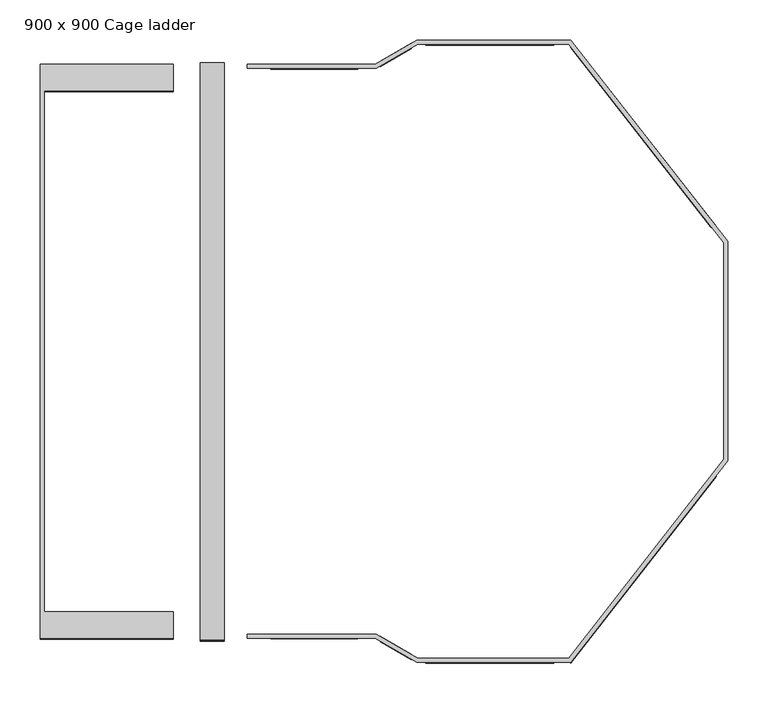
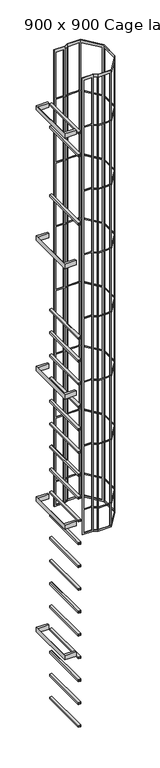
"""IFC4 building model written with IfcOpenShell, lengths in millimetres: proxy geometry, 2_Topaccess_dakluik_900x900_Staka : 900 x 900 Cage ladder."""

from ifc_helpers import new_model, si_unit, frame, origin, place, context, project, spatial, polyline, outline, extrude, faceted_brep, source, transform, mapped, element, save


def proxy_900_x_900_cage_ladder_f72fa98c(model_context):
    return source(origin(), model_context, "Body", "SolidModel", [
        extrude(outline(polyline([(-1131.2697623, 587.2143295), (-965.0960873, 587.2143295), (-965.0960873, 554.2143295), (-1126.2697623, 554.2143295), (-1126.2697623, -95.7856705), (-965.0960873, -95.7856705), (-965.0960873, -128.7856705), (-1131.2697623, -128.7856705), (-1131.2697623, 587.2143295)])), frame((0.0, 0.0, -8830.0), z_axis=(0.0, 0.0, 1.0), x_axis=(1.0, 0.0, 0.0)), (0.0, 0.0, 1.0), 66.0),
        extrude(outline(polyline([(-1131.2697623, 587.2143295), (-965.0960873, 587.2143295), (-965.0960873, 554.2143295), (-1126.2697623, 554.2143295), (-1126.2697623, -95.7856705), (-965.0960873, -95.7856705), (-965.0960873, -128.7856705), (-1131.2697623, -128.7856705), (-1131.2697623, 587.2143295)])), frame((0.0, 0.0, -6830.0), z_axis=(0.0, 0.0, 1.0), x_axis=(1.0, 0.0, 0.0)), (0.0, 0.0, 1.0), 66.0),
        extrude(outline(polyline([(-1131.2697623, 587.2143295), (-965.0960873, 587.2143295), (-965.0960873, 554.2143295), (-1126.2697623, 554.2143295), (-1126.2697623, -95.7856705), (-965.0960873, -95.7856705), (-965.0960873, -128.7856705), (-1131.2697623, -128.7856705), (-1131.2697623, 587.2143295)])), frame((0.0, 0.0, -4830.0), z_axis=(0.0, 0.0, 1.0), x_axis=(1.0, 0.0, 0.0)), (0.0, 0.0, 1.0), 66.0),
        extrude(outline(polyline([(-1131.2697623, 587.2143295), (-965.0960873, 587.2143295), (-965.0960873, 554.2143295), (-1126.2697623, 554.2143295), (-1126.2697623, -95.7856705), (-965.0960873, -95.7856705), (-965.0960873, -128.7856705), (-1131.2697623, -128.7856705), (-1131.2697623, 587.2143295)])), frame((0.0, 0.0, -2830.0), z_axis=(0.0, 0.0, 1.0), x_axis=(1.0, 0.0, 0.0)), (0.0, 0.0, 1.0), 66.0),
        extrude(outline(polyline([(-1131.2697623, 587.2143295), (-965.0960873, 587.2143295), (-965.0960873, 554.2143295), (-1126.2697623, 554.2143295), (-1126.2697623, -95.7856705), (-965.0960873, -95.7856705), (-965.0960873, -128.7856705), (-1131.2697623, -128.7856705), (-1131.2697623, 587.2143295)])), frame((0.0, 0.0, -830.0), z_axis=(0.0, 0.0, 1.0), x_axis=(1.0, 0.0, 0.0)), (0.0, 0.0, 1.0), 66.0),
        extrude(outline(polyline([(-9550.3518203, -901.2697623), (-9555.6416297, -931.2697623), (-9583.3518203, -931.2697623), (-9583.3518203, -901.2697623), (-9550.3518203, -901.2697623)]), holes=[polyline([(-9578.3518203, -906.2697623), (-9578.3518203, -926.2697623), (-9559.8371279, -926.2697623), (-9556.3105883, -906.2697623), (-9578.3518203, -906.2697623)])]), frame((0.0, -130.7856705, 0.0), z_axis=(0.0, 1.0, 0.0), x_axis=(0.0, 0.0, 1.0)), (0.0, 0.0, 1.0), 719.9860439),
        extrude(outline(polyline([(-9200.3518203, -901.2697623), (-9205.6416297, -931.2697623), (-9233.3518203, -931.2697623), (-9233.3518203, -901.2697623), (-9200.3518203, -901.2697623)]), holes=[polyline([(-9228.3518203, -906.2697623), (-9228.3518203, -926.2697623), (-9209.8371279, -926.2697623), (-9206.3105883, -906.2697623), (-9228.3518203, -906.2697623)])]), frame((0.0, -130.7856705, 0.0), z_axis=(0.0, 1.0, 0.0), x_axis=(0.0, 0.0, 1.0)), (0.0, 0.0, 1.0), 719.9860439),
        extrude(outline(polyline([(-8850.3518203, -901.2697623), (-8855.6416297, -931.2697623), (-8883.3518203, -931.2697623), (-8883.3518203, -901.2697623), (-8850.3518203, -901.2697623)]), holes=[polyline([(-8878.3518203, -906.2697623), (-8878.3518203, -926.2697623), (-8859.8371279, -926.2697623), (-8856.3105883, -906.2697623), (-8878.3518203, -906.2697623)])]), frame((0.0, -130.7856705, 0.0), z_axis=(0.0, 1.0, 0.0), x_axis=(0.0, 0.0, 1.0)), (0.0, 0.0, 1.0), 719.9860439),
        extrude(outline(polyline([(-8500.3518203, -901.2697623), (-8505.6416297, -931.2697623), (-8533.3518203, -931.2697623), (-8533.3518203, -901.2697623), (-8500.3518203, -901.2697623)]), holes=[polyline([(-8528.3518203, -906.2697623), (-8528.3518203, -926.2697623), (-8509.8371279, -926.2697623), (-8506.3105883, -906.2697623), (-8528.3518203, -906.2697623)])]), frame((0.0, -130.7856705, 0.0), z_axis=(0.0, 1.0, 0.0), x_axis=(0.0, 0.0, 1.0)), (0.0, 0.0, 1.0), 719.9860439),
        extrude(outline(polyline([(-8150.3518203, -901.2697623), (-8155.6416297, -931.2697623), (-8183.3518203, -931.2697623), (-8183.3518203, -901.2697623), (-8150.3518203, -901.2697623)]), holes=[polyline([(-8178.3518203, -906.2697623), (-8178.3518203, -926.2697623), (-8159.8371279, -926.2697623), (-8156.3105883, -906.2697623), (-8178.3518203, -906.2697623)])]), frame((0.0, -130.7856705, 0.0), z_axis=(0.0, 1.0, 0.0), x_axis=(0.0, 0.0, 1.0)), (0.0, 0.0, 1.0), 719.9860439),
        extrude(outline(polyline([(-7800.3518203, -901.2697623), (-7805.6416297, -931.2697623), (-7833.3518203, -931.2697623), (-7833.3518203, -901.2697623), (-7800.3518203, -901.2697623)]), holes=[polyline([(-7828.3518203, -906.2697623), (-7828.3518203, -926.2697623), (-7809.8371279, -926.2697623), (-7806.3105883, -906.2697623), (-7828.3518203, -906.2697623)])]), frame((0.0, -130.7856705, 0.0), z_axis=(0.0, 1.0, 0.0), x_axis=(0.0, 0.0, 1.0)), (0.0, 0.0, 1.0), 719.9860439),
        extrude(outline(polyline([(-9900.3518203, -901.2697623), (-9905.6416297, -931.2697623), (-9933.3518203, -931.2697623), (-9933.3518203, -901.2697623), (-9900.3518203, -901.2697623)]), holes=[polyline([(-9928.3518203, -906.2697623), (-9928.3518203, -926.2697623), (-9909.8371279, -926.2697623), (-9906.3105883, -906.2697623), (-9928.3518203, -906.2697623)])]), frame((0.0, -130.7856705, 0.0), z_axis=(0.0, 1.0, 0.0), x_axis=(0.0, 0.0, 1.0)), (0.0, 0.0, 1.0), 719.9860439),
        faceted_brep([(-469.3139154, -158.7856705, -7000.0), (-661.1345631, -158.7856705, -7000.0), (-713.0960873, -128.7856705, -7000.0), (-873.0960873, -128.7856705, -7000.0), (-873.0960873, -123.7856705, -7000.0), (-711.7563414, -123.7856705, -7000.0), (-659.7948171, -153.7856705, -7000.0), (-471.7525783, -153.7856705, -7000.0), (-278.0960873, 94.0833347, -7000.0), (-278.0960873, 364.3453244, -7000.0), (-471.7525783, 612.2143295, -7000.0), (-659.7948171, 612.2143295, -7000.0), (-711.7563414, 582.2143295, -7000.0), (-873.0960873, 582.2143295, -7000.0), (-873.0960873, 587.2143295, -7000.0), (-713.0960873, 587.2143295, -7000.0), (-661.1345631, 617.2143295, -7000.0), (-469.3139154, 617.2143295, -7000.0), (-273.0960873, 366.0669624, -7000.0), (-273.0960873, 92.3616966, -7000.0), (-469.3139154, -158.7856705, 0.0), (-273.0960873, 92.3616966, 0.0), (-273.0960873, 366.0669624, 0.0), (-469.3139154, 617.2143295, 0.0), (-661.1345631, 617.2143295, 0.0), (-713.0960873, 587.2143295, 0.0), (-873.0960873, 587.2143295, 0.0), (-873.0960873, 582.2143295, 0.0), (-711.7563414, 582.2143295, 0.0), (-659.7948171, 612.2143295, 0.0), (-471.7525783, 612.2143295, 0.0), (-278.0960873, 364.3453244, 0.0), (-278.0960873, 94.0833347, 0.0), (-471.7525783, -153.7856705, 0.0), (-659.7948171, -153.7856705, 0.0), (-711.7563414, -123.7856705, 0.0), (-873.0960873, -123.7856705, 0.0), (-873.0960873, -128.7856705, 0.0), (-713.0960873, -128.7856705, 0.0), (-661.1345631, -158.7856705, 0.0), (-735.0019754, 587.2143295, -6979.1330823), (-735.0019754, 587.2143295, -6631.2661646), (-843.5509676, 587.2143295, -6631.2661646), (-843.5509676, 587.2143295, -6979.1330823), (-735.0019754, 587.2143295, -6613.9496738), (-735.0019754, 587.2143295, -5653.9496738), (-843.5509676, 587.2143295, -5653.9496738), (-843.5509676, 587.2143295, -6613.9496738), (-735.0019754, 587.2143295, -5636.6331829), (-735.0019754, 587.2143295, -4676.6331829), (-843.5509676, 587.2143295, -4676.6331829), (-843.5509676, 587.2143295, -5636.6331829), (-735.0019754, 587.2143295, -4659.3166921), (-735.0019754, 587.2143295, -3699.3166921), (-843.5509676, 587.2143295, -3699.3166921), (-843.5509676, 587.2143295, -4659.3166921), (-735.0019754, 587.2143295, -3682.0002012), (-735.0019754, 587.2143295, -2722.0002012), (-843.5509676, 587.2143295, -2722.0002012), (-843.5509676, 587.2143295, -3682.0002012), (-735.0019754, 587.2143295, -2704.6837104), (-735.0019754, 587.2143295, -1744.6837104), (-843.5509676, 587.2143295, -1744.6837104), (-843.5509676, 587.2143295, -2704.6837104), (-735.0019754, 587.2143295, -1727.3672195), (-735.0019754, 587.2143295, -767.3672195), (-843.5509676, 587.2143295, -767.3672195), (-843.5509676, 587.2143295, -1727.3672195), (-735.0019754, 587.2143295, -750.0507287), (-735.0019754, 587.2143295, -43.4473494), (-843.5509676, 587.2143295, -43.4473494), (-843.5509676, 587.2143295, -750.0507287), (-667.8982538, 613.3093109, -6982.1330823), (-667.8982538, 613.3093109, -6652.1330823), (-707.1488288, 590.6479808, -6652.1330823), (-707.1488288, 590.6479808, -6982.1330823), (-667.8982538, 613.3093109, -6634.8165915), (-667.8982538, 613.3093109, -5674.8165915), (-707.1488288, 590.6479808, -5674.8165915), (-707.1488288, 590.6479808, -6634.8165915), (-667.8982538, 613.3093109, -5657.5001006), (-667.8982538, 613.3093109, -4697.5001006), (-707.1488288, 590.6479808, -4697.5001006), (-707.1488288, 590.6479808, -5657.5001006), (-667.8982538, 613.3093109, -4680.1836098), (-667.8982538, 613.3093109, -3720.1836098), (-707.1488288, 590.6479808, -3720.1836098), (-707.1488288, 590.6479808, -4680.1836098), (-667.8982538, 613.3093109, -3702.8671189), (-667.8982538, 613.3093109, -2742.8671189), (-707.1488288, 590.6479808, -2742.8671189), (-707.1488288, 590.6479808, -3702.8671189), (-667.8982538, 613.3093109, -2725.5506281), (-667.8982538, 613.3093109, -1765.5506281), (-707.1488288, 590.6479808, -1765.5506281), (-707.1488288, 590.6479808, -2725.5506281), (-667.8982538, 613.3093109, -1748.2341372), (-667.8982538, 613.3093109, -788.2341372), (-707.1488288, 590.6479808, -788.2341372), (-707.1488288, 590.6479808, -1748.2341372), (-667.8982538, 613.3093109, -770.9176464), (-667.8982538, 613.3093109, -43.4473494), (-707.1488288, 590.6479808, -43.4473494), (-707.1488288, 590.6479808, -770.9176464), (-469.3139154, 617.2143295, -43.4473494), (-469.3139154, 617.2143295, -770.9176464), (-469.3139154, 617.2143295, -788.2341372), (-469.3139154, 617.2143295, -1748.2341372), (-469.3139154, 617.2143295, -1765.5506281), (-469.3139154, 617.2143295, -2725.5506281), (-469.3139154, 617.2143295, -2742.8671189), (-469.3139154, 617.2143295, -3702.8671189), (-469.3139154, 617.2143295, -3720.1836098), (-469.3139154, 617.2143295, -4680.1836098), (-469.3139154, 617.2143295, -4697.5001006), (-469.3139154, 617.2143295, -5657.5001006), (-469.3139154, 617.2143295, -5674.8165915), (-469.3139154, 617.2143295, -6634.8165915), (-469.3139154, 617.2143295, -6652.1330823), (-469.3139154, 617.2143295, -6975.0), (-490.4779321, 617.2143295, -6979.1330823), (-490.4779321, 617.2143295, -6652.1330823), (-649.9751443, 617.2143295, -6652.1330823), (-649.9751443, 617.2143295, -6979.1330823), (-490.4779321, 617.2143295, -6634.8165915), (-490.4779321, 617.2143295, -5674.8165915), (-649.9751443, 617.2143295, -5674.8165915), (-649.9751443, 617.2143295, -6634.8165915), (-490.4779321, 617.2143295, -5657.5001006), (-490.4779321, 617.2143295, -4697.5001006), (-649.9751443, 617.2143295, -4697.5001006), (-649.9751443, 617.2143295, -5657.5001006), (-490.4779321, 617.2143295, -4680.1836098), (-490.4779321, 617.2143295, -3720.1836098), (-649.9751443, 617.2143295, -3720.1836098), (-649.9751443, 617.2143295, -4680.1836098), (-490.4779321, 617.2143295, -3702.8671189), (-490.4779321, 617.2143295, -2742.8671189), (-649.9751443, 617.2143295, -2742.8671189), (-649.9751443, 617.2143295, -3702.8671189), (-490.4779321, 617.2143295, -2725.5506281), (-490.4779321, 617.2143295, -1765.5506281), (-649.9751443, 617.2143295, -1765.5506281), (-649.9751443, 617.2143295, -2725.5506281), (-490.4779321, 617.2143295, -1748.2341372), (-490.4779321, 617.2143295, -788.2341372), (-649.9751443, 617.2143295, -788.2341372), (-649.9751443, 617.2143295, -1748.2341372), (-490.4779321, 617.2143295, -770.9176464), (-490.4779321, 617.2143295, -43.4473494), (-649.9751443, 617.2143295, -43.4473494), (-649.9751443, 617.2143295, -770.9176464), (-287.9175778, 385.0376052, -6975.0), (-287.9175778, 385.0376052, -6652.1330823), (-287.9175778, 385.0376052, -6634.8165915), (-287.9175778, 385.0376052, -5674.8165915), (-287.9175778, 385.0376052, -5657.5001006), (-287.9175778, 385.0376052, -4697.5001006), (-287.9175778, 385.0376052, -4680.1836098), (-287.9175778, 385.0376052, -3720.1836098), (-287.9175778, 385.0376052, -3702.8671189), (-287.9175778, 385.0376052, -2742.8671189), (-287.9175778, 385.0376052, -2725.5506281), (-287.9175778, 385.0376052, -1765.5506281), (-287.9175778, 385.0376052, -1748.2341372), (-287.9175778, 385.0376052, -788.2341372), (-287.9175778, 385.0376052, -770.9176464), (-287.9175778, 385.0376052, -43.4473494), (-273.0960873, 348.3770978, -6975.0), (-273.0960873, 108.3770978, -6975.0), (-273.0960873, 108.3770978, -6652.1330823), (-273.0960873, 348.3770978, -6652.1330823), (-273.0960873, 348.3770978, -6634.8165915), (-273.0960873, 108.3770978, -6634.8165915), (-273.0960873, 108.3770978, -5674.8165915), (-273.0960873, 348.3770978, -5674.8165915), (-273.0960873, 348.3770978, -5657.5001006), (-273.0960873, 108.3770978, -5657.5001006), (-273.0960873, 108.3770978, -4697.5001006), (-273.0960873, 348.3770978, -4697.5001006), (-273.0960873, 348.3770978, -4680.1836098), (-273.0960873, 108.3770978, -4680.1836098), (-273.0960873, 108.3770978, -3720.1836098), (-273.0960873, 348.3770978, -3720.1836098), (-273.0960873, 348.3770978, -3702.8671189), (-273.0960873, 108.3770978, -3702.8671189), (-273.0960873, 108.3770978, -2742.8671189), (-273.0960873, 348.3770978, -2742.8671189), (-273.0960873, 348.3770978, -2725.5506281), (-273.0960873, 108.3770978, -2725.5506281), (-273.0960873, 108.3770978, -1765.5506281), (-273.0960873, 348.3770978, -1765.5506281), (-273.0960873, 348.3770978, -1748.2341372), (-273.0960873, 108.3770978, -1748.2341372), (-273.0960873, 108.3770978, -788.2341372), (-273.0960873, 348.3770978, -788.2341372), (-273.0960873, 348.3770978, -770.9176464), (-273.0960873, 108.3770978, -770.9176464), (-273.0960873, 108.3770978, -43.4473494), (-273.0960873, 348.3770978, -43.4473494), (-469.3139154, -158.7856705, -43.4473494), (-287.9284816, 73.3770978, -43.4473494), (-287.9284816, 73.3770978, -770.9176464), (-469.3139154, -158.7856705, -770.9176464), (-469.3139154, -158.7856705, -788.2341372), (-287.9284816, 73.3770978, -788.2341372), (-287.9284816, 73.3770978, -1748.2341372), (-469.3139154, -158.7856705, -1748.2341372), (-469.3139154, -158.7856705, -1765.5506281), (-287.9284816, 73.3770978, -1765.5506281), (-287.9284816, 73.3770978, -2725.5506281), (-469.3139154, -158.7856705, -2725.5506281), (-469.3139154, -158.7856705, -2742.8671189), (-287.9284816, 73.3770978, -2742.8671189), (-287.9284816, 73.3770978, -3702.8671189), (-469.3139154, -158.7856705, -3702.8671189), (-469.3139154, -158.7856705, -3720.1836098), (-287.9284816, 73.3770978, -3720.1836098), (-287.9284816, 73.3770978, -4680.1836098), (-469.3139154, -158.7856705, -4680.1836098), (-469.3139154, -158.7856705, -4697.5001006), (-287.9284816, 73.3770978, -4697.5001006), (-287.9284816, 73.3770978, -5657.5001006), (-469.3139154, -158.7856705, -5657.5001006), (-469.3139154, -158.7856705, -5674.8165915), (-287.9284816, 73.3770978, -5674.8165915), (-287.9284816, 73.3770978, -6634.8165915), (-469.3139154, -158.7856705, -6634.8165915), (-469.3139154, -158.7856705, -6652.1330823), (-287.9284816, 73.3770978, -6652.1330823), (-287.9284816, 73.3770978, -6979.1330823), (-469.3139154, -158.7856705, -6979.1330823), (-490.4779321, -158.7856705, -6652.1330823), (-490.4779321, -158.7856705, -6979.1330823), (-649.9751443, -158.7856705, -6979.1330823), (-649.9751443, -158.7856705, -6652.1330823), (-490.4779321, -158.7856705, -5674.8165915), (-490.4779321, -158.7856705, -6634.8165915), (-649.9751443, -158.7856705, -6634.8165915), (-649.9751443, -158.7856705, -5674.8165915), (-490.4779321, -158.7856705, -4697.5001006), (-490.4779321, -158.7856705, -5657.5001006), (-649.9751443, -158.7856705, -5657.5001006), (-649.9751443, -158.7856705, -4697.5001006), (-490.4779321, -158.7856705, -3720.1836098), (-490.4779321, -158.7856705, -4680.1836098), (-649.9751443, -158.7856705, -4680.1836098), (-649.9751443, -158.7856705, -3720.1836098), (-490.4779321, -158.7856705, -2742.8671189), (-490.4779321, -158.7856705, -3702.8671189), (-649.9751443, -158.7856705, -3702.8671189), (-649.9751443, -158.7856705, -2742.8671189), (-490.4779321, -158.7856705, -1765.5506281), (-490.4779321, -158.7856705, -2725.5506281), (-649.9751443, -158.7856705, -2725.5506281), (-649.9751443, -158.7856705, -1765.5506281), (-490.4779321, -158.7856705, -788.2341372), (-490.4779321, -158.7856705, -1748.2341372), (-649.9751443, -158.7856705, -1748.2341372), (-649.9751443, -158.7856705, -788.2341372), (-490.4779321, -158.7856705, -43.4473494), (-490.4779321, -158.7856705, -770.9176464), (-649.9751443, -158.7856705, -770.9176464), (-649.9751443, -158.7856705, -43.4473494), (-667.8982538, -154.8806518, -6652.1330823), (-667.8982538, -154.8806518, -6982.1330823), (-707.1488288, -132.2193217, -6982.1330823), (-707.1488288, -132.2193217, -6652.1330823), (-667.8982538, -154.8806518, -5674.8165915), (-667.8982538, -154.8806518, -6634.8165915), (-707.1488288, -132.2193217, -6634.8165915), (-707.1488288, -132.2193217, -5674.8165915), (-667.8982538, -154.8806518, -4697.5001006), (-667.8982538, -154.8806518, -5657.5001006), (-707.1488288, -132.2193217, -5657.5001006), (-707.1488288, -132.2193217, -4697.5001006), (-667.8982538, -154.8806518, -3720.1836098), (-667.8982538, -154.8806518, -4680.1836098), (-707.1488288, -132.2193217, -4680.1836098), (-707.1488288, -132.2193217, -3720.1836098), (-667.8982538, -154.8806518, -2742.8671189), (-667.8982538, -154.8806518, -3702.8671189), (-707.1488288, -132.2193217, -3702.8671189), (-707.1488288, -132.2193217, -2742.8671189), (-667.8982538, -154.8806518, -1765.5506281), (-667.8982538, -154.8806518, -2725.5506281), (-707.1488288, -132.2193217, -2725.5506281), (-707.1488288, -132.2193217, -1765.5506281), (-667.8982538, -154.8806518, -788.2341372), (-667.8982538, -154.8806518, -1748.2341372), (-707.1488288, -132.2193217, -1748.2341372), (-707.1488288, -132.2193217, -788.2341372), (-667.8982538, -154.8806518, -43.4473494), (-667.8982538, -154.8806518, -770.9176464), (-707.1488288, -132.2193217, -770.9176464), (-707.1488288, -132.2193217, -43.4473494), (-735.0019754, -128.7856705, -6631.2661646), (-735.0019754, -128.7856705, -6979.1330823), (-843.5509676, -128.7856705, -6979.1330823), (-843.5509676, -128.7856705, -6631.2661646), (-735.0019754, -128.7856705, -5653.9496738), (-735.0019754, -128.7856705, -6613.9496738), (-843.5509676, -128.7856705, -6613.9496738), (-843.5509676, -128.7856705, -5653.9496738), (-735.0019754, -128.7856705, -4676.6331829), (-735.0019754, -128.7856705, -5636.6331829), (-843.5509676, -128.7856705, -5636.6331829), (-843.5509676, -128.7856705, -4676.6331829), (-735.0019754, -128.7856705, -3699.3166921), (-735.0019754, -128.7856705, -4659.3166921), (-843.5509676, -128.7856705, -4659.3166921), (-843.5509676, -128.7856705, -3699.3166921), (-735.0019754, -128.7856705, -2722.0002012), (-735.0019754, -128.7856705, -3682.0002012), (-843.5509676, -128.7856705, -3682.0002012), (-843.5509676, -128.7856705, -2722.0002012), (-735.0019754, -128.7856705, -1744.6837104), (-735.0019754, -128.7856705, -2704.6837104), (-843.5509676, -128.7856705, -2704.6837104), (-843.5509676, -128.7856705, -1744.6837104), (-735.0019754, -128.7856705, -767.3672195), (-735.0019754, -128.7856705, -1727.3672195), (-843.5509676, -128.7856705, -1727.3672195), (-843.5509676, -128.7856705, -767.3672195), (-735.0019754, -128.7856705, -43.4473494), (-735.0019754, -128.7856705, -750.0507287), (-843.5509676, -128.7856705, -750.0507287), (-843.5509676, -128.7856705, -43.4473494), (-735.0019754, -123.7856705, -6979.1330823), (-735.0019754, -123.7856705, -6631.2661646), (-843.5509676, -123.7856705, -6631.2661646), (-843.5509676, -123.7856705, -6979.1330823), (-735.0019754, -123.7856705, -6613.9496738), (-735.0019754, -123.7856705, -5653.9496738), (-843.5509676, -123.7856705, -5653.9496738), (-843.5509676, -123.7856705, -6613.9496738), (-735.0019754, -123.7856705, -5636.6331829), (-735.0019754, -123.7856705, -4676.6331829), (-843.5509676, -123.7856705, -4676.6331829), (-843.5509676, -123.7856705, -5636.6331829), (-735.0019754, -123.7856705, -4659.3166921), (-735.0019754, -123.7856705, -3699.3166921), (-843.5509676, -123.7856705, -3699.3166921), (-843.5509676, -123.7856705, -4659.3166921), (-735.0019754, -123.7856705, -3682.0002012), (-735.0019754, -123.7856705, -2722.0002012), (-843.5509676, -123.7856705, -2722.0002012), (-843.5509676, -123.7856705, -3682.0002012), (-735.0019754, -123.7856705, -2704.6837104), (-735.0019754, -123.7856705, -1744.6837104), (-843.5509676, -123.7856705, -1744.6837104), (-843.5509676, -123.7856705, -2704.6837104), (-735.0019754, -123.7856705, -1727.3672195), (-735.0019754, -123.7856705, -767.3672195), (-843.5509676, -123.7856705, -767.3672195), (-843.5509676, -123.7856705, -1727.3672195), (-735.0019754, -123.7856705, -750.0507287), (-735.0019754, -123.7856705, -43.4473494), (-843.5509676, -123.7856705, -43.4473494), (-843.5509676, -123.7856705, -750.0507287), (-667.8982538, -149.1071491, -6982.1330823), (-667.8982538, -149.1071491, -6652.1330823), (-707.1488288, -126.4458191, -6652.1330823), (-707.1488288, -126.4458191, -6982.1330823), (-667.8982538, -149.1071491, -6634.8165915), (-667.8982538, -149.1071491, -5674.8165915), (-707.1488288, -126.4458191, -5674.8165915), (-707.1488288, -126.4458191, -6634.8165915), (-667.8982538, -149.1071491, -5657.5001006), (-667.8982538, -149.1071491, -4697.5001006), (-707.1488288, -126.4458191, -4697.5001006), (-707.1488288, -126.4458191, -5657.5001006), (-667.8982538, -149.1071491, -4680.1836098), (-667.8982538, -149.1071491, -3720.1836098), (-707.1488288, -126.4458191, -3720.1836098), (-707.1488288, -126.4458191, -4680.1836098), (-667.8982538, -149.1071491, -3702.8671189), (-667.8982538, -149.1071491, -2742.8671189), (-707.1488288, -126.4458191, -2742.8671189), (-707.1488288, -126.4458191, -3702.8671189), (-667.8982538, -149.1071491, -2725.5506281), (-667.8982538, -149.1071491, -1765.5506281), (-707.1488288, -126.4458191, -1765.5506281), (-707.1488288, -126.4458191, -2725.5506281), (-667.8982538, -149.1071491, -1748.2341372), (-667.8982538, -149.1071491, -788.2341372), (-707.1488288, -126.4458191, -788.2341372), (-707.1488288, -126.4458191, -1748.2341372), (-667.8982538, -149.1071491, -770.9176464), (-667.8982538, -149.1071491, -43.4473494), (-707.1488288, -126.4458191, -43.4473494), (-707.1488288, -126.4458191, -770.9176464), (-490.4779321, -153.7856705, -6979.1330823), (-490.4779321, -153.7856705, -6652.1330823), (-649.9751443, -153.7856705, -6652.1330823), (-649.9751443, -153.7856705, -6979.1330823), (-490.4779321, -153.7856705, -6634.8165915), (-490.4779321, -153.7856705, -5674.8165915), (-649.9751443, -153.7856705, -5674.8165915), (-649.9751443, -153.7856705, -6634.8165915), (-490.4779321, -153.7856705, -5657.5001006), (-490.4779321, -153.7856705, -4697.5001006), (-649.9751443, -153.7856705, -4697.5001006), (-649.9751443, -153.7856705, -5657.5001006), (-490.4779321, -153.7856705, -4680.1836098), (-490.4779321, -153.7856705, -3720.1836098), (-649.9751443, -153.7856705, -3720.1836098), (-649.9751443, -153.7856705, -4680.1836098), (-490.4779321, -153.7856705, -3702.8671189), (-490.4779321, -153.7856705, -2742.8671189), (-649.9751443, -153.7856705, -2742.8671189), (-649.9751443, -153.7856705, -3702.8671189), (-490.4779321, -153.7856705, -2725.5506281), (-490.4779321, -153.7856705, -1765.5506281), (-649.9751443, -153.7856705, -1765.5506281), (-649.9751443, -153.7856705, -2725.5506281), (-490.4779321, -153.7856705, -1748.2341372), (-490.4779321, -153.7856705, -788.2341372), (-649.9751443, -153.7856705, -788.2341372), (-649.9751443, -153.7856705, -1748.2341372), (-490.4779321, -153.7856705, -770.9176464), (-490.4779321, -153.7856705, -43.4473494), (-649.9751443, -153.7856705, -43.4473494), (-649.9751443, -153.7856705, -770.9176464), (-469.3139154, -150.6643242, -6652.1330823), (-469.3139154, -150.6643242, -6979.1330823), (-294.2735726, 73.3770978, -6979.1330823), (-294.2735726, 73.3770978, -6652.1330823), (-469.3139154, -150.6643242, -5674.8165915), (-469.3139154, -150.6643242, -6634.8165915), (-294.2735726, 73.3770978, -6634.8165915), (-294.2735726, 73.3770978, -5674.8165915), (-469.3139154, -150.6643242, -4697.5001006), (-469.3139154, -150.6643242, -5657.5001006), (-294.2735726, 73.3770978, -5657.5001006), (-294.2735726, 73.3770978, -4697.5001006), (-469.3139154, -150.6643242, -3720.1836098), (-469.3139154, -150.6643242, -4680.1836098), (-294.2735726, 73.3770978, -4680.1836098), (-294.2735726, 73.3770978, -3720.1836098), (-469.3139154, -150.6643242, -2742.8671189), (-469.3139154, -150.6643242, -3702.8671189), (-294.2735726, 73.3770978, -3702.8671189), (-294.2735726, 73.3770978, -2742.8671189), (-469.3139154, -150.6643242, -1765.5506281), (-469.3139154, -150.6643242, -2725.5506281), (-294.2735726, 73.3770978, -2725.5506281), (-294.2735726, 73.3770978, -1765.5506281), (-469.3139154, -150.6643242, -788.2341372), (-469.3139154, -150.6643242, -1748.2341372), (-294.2735726, 73.3770978, -1748.2341372), (-294.2735726, 73.3770978, -788.2341372), (-469.3139154, -150.6643242, -43.4473494), (-469.3139154, -150.6643242, -770.9176464), (-294.2735726, 73.3770978, -770.9176464), (-294.2735726, 73.3770978, -43.4473494), (-278.0960873, 108.3770978, -6975.0), (-278.0960873, 348.3770978, -6975.0), (-278.0960873, 348.3770978, -6652.1330823), (-278.0960873, 108.3770978, -6652.1330823), (-278.0960873, 108.3770978, -6634.8165915), (-278.0960873, 348.3770978, -6634.8165915), (-278.0960873, 348.3770978, -5674.8165915), (-278.0960873, 108.3770978, -5674.8165915), (-278.0960873, 108.3770978, -5657.5001006), (-278.0960873, 348.3770978, -5657.5001006), (-278.0960873, 348.3770978, -4697.5001006), (-278.0960873, 108.3770978, -4697.5001006), (-278.0960873, 108.3770978, -4680.1836098), (-278.0960873, 348.3770978, -4680.1836098), (-278.0960873, 348.3770978, -3720.1836098), (-278.0960873, 108.3770978, -3720.1836098), (-278.0960873, 108.3770978, -3702.8671189), (-278.0960873, 348.3770978, -3702.8671189), (-278.0960873, 348.3770978, -2742.8671189), (-278.0960873, 108.3770978, -2742.8671189), (-278.0960873, 108.3770978, -2725.5506281), (-278.0960873, 348.3770978, -2725.5506281), (-278.0960873, 348.3770978, -1765.5506281), (-278.0960873, 108.3770978, -1765.5506281), (-278.0960873, 108.3770978, -1748.2341372), (-278.0960873, 348.3770978, -1748.2341372), (-278.0960873, 348.3770978, -788.2341372), (-278.0960873, 108.3770978, -788.2341372), (-278.0960873, 108.3770978, -770.9176464), (-278.0960873, 348.3770978, -770.9176464), (-278.0960873, 348.3770978, -43.4473494), (-278.0960873, 108.3770978, -43.4473494), (-469.3139154, 609.0929833, -6975.0), (-469.3139154, 609.0929833, -6652.1330823), (-294.2626689, 385.0376052, -6652.1330823), (-294.2626689, 385.0376052, -6975.0), (-469.3139154, 609.0929833, -6634.8165915), (-469.3139154, 609.0929833, -5674.8165915), (-294.2626689, 385.0376052, -5674.8165915), (-294.2626689, 385.0376052, -6634.8165915), (-469.3139154, 609.0929833, -5657.5001006), (-469.3139154, 609.0929833, -4697.5001006), (-294.2626689, 385.0376052, -4697.5001006), (-294.2626689, 385.0376052, -5657.5001006), (-469.3139154, 609.0929833, -4680.1836098), (-469.3139154, 609.0929833, -3720.1836098), (-294.2626689, 385.0376052, -3720.1836098), (-294.2626689, 385.0376052, -4680.1836098), (-469.3139154, 609.0929833, -3702.8671189), (-469.3139154, 609.0929833, -2742.8671189), (-294.2626689, 385.0376052, -2742.8671189), (-294.2626689, 385.0376052, -3702.8671189), (-469.3139154, 609.0929833, -2725.5506281), (-469.3139154, 609.0929833, -1765.5506281), (-294.2626689, 385.0376052, -1765.5506281), (-294.2626689, 385.0376052, -2725.5506281), (-469.3139154, 609.0929833, -1748.2341372), (-469.3139154, 609.0929833, -788.2341372), (-294.2626689, 385.0376052, -788.2341372), (-294.2626689, 385.0376052, -1748.2341372), (-469.3139154, 609.0929833, -770.9176464), (-469.3139154, 609.0929833, -43.4473494), (-294.2626689, 385.0376052, -43.4473494), (-294.2626689, 385.0376052, -770.9176464), (-490.4779321, 612.2143295, -6652.1330823), (-490.4779321, 612.2143295, -6979.1330823), (-649.9751443, 612.2143295, -6979.1330823), (-649.9751443, 612.2143295, -6652.1330823), (-490.4779321, 612.2143295, -5674.8165915), (-490.4779321, 612.2143295, -6634.8165915), (-649.9751443, 612.2143295, -6634.8165915), (-649.9751443, 612.2143295, -5674.8165915), (-490.4779321, 612.2143295, -4697.5001006), (-490.4779321, 612.2143295, -5657.5001006), (-649.9751443, 612.2143295, -5657.5001006), (-649.9751443, 612.2143295, -4697.5001006), (-490.4779321, 612.2143295, -3720.1836098), (-490.4779321, 612.2143295, -4680.1836098), (-649.9751443, 612.2143295, -4680.1836098), (-649.9751443, 612.2143295, -3720.1836098), (-490.4779321, 612.2143295, -2742.8671189), (-490.4779321, 612.2143295, -3702.8671189), (-649.9751443, 612.2143295, -3702.8671189), (-649.9751443, 612.2143295, -2742.8671189), (-490.4779321, 612.2143295, -1765.5506281), (-490.4779321, 612.2143295, -2725.5506281), (-649.9751443, 612.2143295, -2725.5506281), (-649.9751443, 612.2143295, -1765.5506281), (-490.4779321, 612.2143295, -788.2341372), (-490.4779321, 612.2143295, -1748.2341372), (-649.9751443, 612.2143295, -1748.2341372), (-649.9751443, 612.2143295, -788.2341372), (-490.4779321, 612.2143295, -43.4473494), (-490.4779321, 612.2143295, -770.9176464), (-649.9751443, 612.2143295, -770.9176464), (-649.9751443, 612.2143295, -43.4473494), (-667.8982538, 607.5358082, -6652.1330823), (-667.8982538, 607.5358082, -6982.1330823), (-707.1488288, 584.8744781, -6982.1330823), (-707.1488288, 584.8744781, -6652.1330823), (-667.8982538, 607.5358082, -5674.8165915), (-667.8982538, 607.5358082, -6634.8165915), (-707.1488288, 584.8744781, -6634.8165915), (-707.1488288, 584.8744781, -5674.8165915), (-667.8982538, 607.5358082, -4697.5001006), (-667.8982538, 607.5358082, -5657.5001006), (-707.1488288, 584.8744781, -5657.5001006), (-707.1488288, 584.8744781, -4697.5001006), (-667.8982538, 607.5358082, -3720.1836098), (-667.8982538, 607.5358082, -4680.1836098), (-707.1488288, 584.8744781, -4680.1836098), (-707.1488288, 584.8744781, -3720.1836098), (-667.8982538, 607.5358082, -2742.8671189), (-667.8982538, 607.5358082, -3702.8671189), (-707.1488288, 584.8744781, -3702.8671189), (-707.1488288, 584.8744781, -2742.8671189), (-667.8982538, 607.5358082, -1765.5506281), (-667.8982538, 607.5358082, -2725.5506281), (-707.1488288, 584.8744781, -2725.5506281), (-707.1488288, 584.8744781, -1765.5506281), (-667.8982538, 607.5358082, -788.2341372), (-667.8982538, 607.5358082, -1748.2341372), (-707.1488288, 584.8744781, -1748.2341372), (-707.1488288, 584.8744781, -788.2341372), (-667.8982538, 607.5358082, -43.4473494), (-667.8982538, 607.5358082, -770.9176464), (-707.1488288, 584.8744781, -770.9176464), (-707.1488288, 584.8744781, -43.4473494), (-735.0019754, 582.2143295, -6631.2661646), (-735.0019754, 582.2143295, -6979.1330823), (-843.5509676, 582.2143295, -6979.1330823), (-843.5509676, 582.2143295, -6631.2661646), (-735.0019754, 582.2143295, -5653.9496738), (-735.0019754, 582.2143295, -6613.9496738), (-843.5509676, 582.2143295, -6613.9496738), (-843.5509676, 582.2143295, -5653.9496738), (-735.0019754, 582.2143295, -4676.6331829), (-735.0019754, 582.2143295, -5636.6331829), (-843.5509676, 582.2143295, -5636.6331829), (-843.5509676, 582.2143295, -4676.6331829), (-735.0019754, 582.2143295, -3699.3166921), (-735.0019754, 582.2143295, -4659.3166921), (-843.5509676, 582.2143295, -4659.3166921), (-843.5509676, 582.2143295, -3699.3166921), (-735.0019754, 582.2143295, -2722.0002012), (-735.0019754, 582.2143295, -3682.0002012), (-843.5509676, 582.2143295, -3682.0002012), (-843.5509676, 582.2143295, -2722.0002012), (-735.0019754, 582.2143295, -1744.6837104), (-735.0019754, 582.2143295, -2704.6837104), (-843.5509676, 582.2143295, -2704.6837104), (-843.5509676, 582.2143295, -1744.6837104), (-735.0019754, 582.2143295, -767.3672195), (-735.0019754, 582.2143295, -1727.3672195), (-843.5509676, 582.2143295, -1727.3672195), (-843.5509676, 582.2143295, -767.3672195), (-735.0019754, 582.2143295, -43.4473494), (-735.0019754, 582.2143295, -750.0507287), (-843.5509676, 582.2143295, -750.0507287), (-843.5509676, 582.2143295, -43.4473494)], [[[0, 1, 2, 3, 4, 5, 6, 7, 8, 9, 10, 11, 12, 13, 14, 15, 16, 17, 18, 19]], [[20, 21, 22, 23, 24, 25, 26, 27, 28, 29, 30, 31, 32, 33, 34, 35, 36, 37, 38, 39]], [[15, 14, 26, 25], [40, 41, 42, 43], [44, 45, 46, 47], [48, 49, 50, 51], [52, 53, 54, 55], [56, 57, 58, 59], [60, 61, 62, 63], [64, 65, 66, 67], [68, 69, 70, 71]], [[16, 15, 25, 24], [72, 73, 74, 75], [76, 77, 78, 79], [80, 81, 82, 83], [84, 85, 86, 87], [88, 89, 90, 91], [92, 93, 94, 95], [96, 97, 98, 99], [100, 101, 102, 103]], [[17, 16, 24, 23, 104, 105, 106, 107, 108, 109, 110, 111, 112, 113, 114, 115, 116, 117, 118, 119], [120, 121, 122, 123], [124, 125, 126, 127], [128, 129, 130, 131], [132, 133, 134, 135], [136, 137, 138, 139], [140, 141, 142, 143], [144, 145, 146, 147], [148, 149, 150, 151]], [[18, 17, 119, 152, 153, 118, 117, 154, 155, 116, 115, 156, 157, 114, 113, 158, 159, 112, 111, 160, 161, 110, 109, 162, 163, 108, 107, 164, 165, 106, 105, 166, 167, 104, 23, 22]], [[19, 18, 22, 21], [168, 169, 170, 171], [172, 173, 174, 175], [176, 177, 178, 179], [180, 181, 182, 183], [184, 185, 186, 187], [188, 189, 190, 191], [192, 193, 194, 195], [196, 197, 198, 199]], [[0, 19, 21, 20, 200, 201, 202, 203, 204, 205, 206, 207, 208, 209, 210, 211, 212, 213, 214, 215, 216, 217, 218, 219, 220, 221, 222, 223, 224, 225, 226, 227, 228, 229, 230, 231]], [[1, 0, 231, 228, 227, 224, 223, 220, 219, 216, 215, 212, 211, 208, 207, 204, 203, 200, 20, 39], [232, 233, 234, 235], [236, 237, 238, 239], [240, 241, 242, 243], [244, 245, 246, 247], [248, 249, 250, 251], [252, 253, 254, 255], [256, 257, 258, 259], [260, 261, 262, 263]], [[2, 1, 39, 38], [264, 265, 266, 267], [268, 269, 270, 271], [272, 273, 274, 275], [276, 277, 278, 279], [280, 281, 282, 283], [284, 285, 286, 287], [288, 289, 290, 291], [292, 293, 294, 295]], [[3, 2, 38, 37], [296, 297, 298, 299], [300, 301, 302, 303], [304, 305, 306, 307], [308, 309, 310, 311], [312, 313, 314, 315], [316, 317, 318, 319], [320, 321, 322, 323], [324, 325, 326, 327]], [[4, 3, 37, 36]], [[5, 4, 36, 35], [328, 329, 330, 331], [332, 333, 334, 335], [336, 337, 338, 339], [340, 341, 342, 343], [344, 345, 346, 347], [348, 349, 350, 351], [352, 353, 354, 355], [356, 357, 358, 359]], [[6, 5, 35, 34], [360, 361, 362, 363], [364, 365, 366, 367], [368, 369, 370, 371], [372, 373, 374, 375], [376, 377, 378, 379], [380, 381, 382, 383], [384, 385, 386, 387], [388, 389, 390, 391]], [[7, 6, 34, 33], [392, 393, 394, 395], [396, 397, 398, 399], [400, 401, 402, 403], [404, 405, 406, 407], [408, 409, 410, 411], [412, 413, 414, 415], [416, 417, 418, 419], [420, 421, 422, 423]], [[8, 7, 33, 32], [424, 425, 426, 427], [428, 429, 430, 431], [432, 433, 434, 435], [436, 437, 438, 439], [440, 441, 442, 443], [444, 445, 446, 447], [448, 449, 450, 451], [452, 453, 454, 455]], [[9, 8, 32, 31], [456, 457, 458, 459], [460, 461, 462, 463], [464, 465, 466, 467], [468, 469, 470, 471], [472, 473, 474, 475], [476, 477, 478, 479], [480, 481, 482, 483], [484, 485, 486, 487]], [[10, 9, 31, 30], [488, 489, 490, 491], [492, 493, 494, 495], [496, 497, 498, 499], [500, 501, 502, 503], [504, 505, 506, 507], [508, 509, 510, 511], [512, 513, 514, 515], [516, 517, 518, 519]], [[11, 10, 30, 29], [520, 521, 522, 523], [524, 525, 526, 527], [528, 529, 530, 531], [532, 533, 534, 535], [536, 537, 538, 539], [540, 541, 542, 543], [544, 545, 546, 547], [548, 549, 550, 551]], [[12, 11, 29, 28], [552, 553, 554, 555], [556, 557, 558, 559], [560, 561, 562, 563], [564, 565, 566, 567], [568, 569, 570, 571], [572, 573, 574, 575], [576, 577, 578, 579], [580, 581, 582, 583]], [[13, 12, 28, 27], [584, 585, 586, 587], [588, 589, 590, 591], [592, 593, 594, 595], [596, 597, 598, 599], [600, 601, 602, 603], [604, 605, 606, 607], [608, 609, 610, 611], [612, 613, 614, 615]], [[14, 13, 27, 26]], [[456, 169, 168, 457]], [[457, 168, 171, 458]], [[458, 171, 170, 459]], [[169, 456, 459, 170]], [[460, 173, 172, 461]], [[461, 172, 175, 462]], [[462, 175, 174, 463]], [[173, 460, 463, 174]], [[464, 177, 176, 465]], [[465, 176, 179, 466]], [[466, 179, 178, 467]], [[177, 464, 467, 178]], [[468, 181, 180, 469]], [[469, 180, 183, 470]], [[470, 183, 182, 471]], [[181, 468, 471, 182]], [[472, 185, 184, 473]], [[473, 184, 187, 474]], [[474, 187, 186, 475]], [[185, 472, 475, 186]], [[476, 189, 188, 477]], [[477, 188, 191, 478]], [[478, 191, 190, 479]], [[189, 476, 479, 190]], [[480, 193, 192, 481]], [[481, 192, 195, 482]], [[482, 195, 194, 483]], [[193, 480, 483, 194]], [[484, 197, 196, 485]], [[485, 196, 199, 486]], [[486, 199, 198, 487]], [[197, 484, 487, 198]], [[231, 425, 424, 228]], [[227, 429, 428, 224]], [[223, 433, 432, 220]], [[219, 437, 436, 216]], [[215, 441, 440, 212]], [[211, 445, 444, 208]], [[207, 449, 448, 204]], [[203, 453, 452, 200]], [[425, 231, 230, 426]], [[426, 230, 229, 427]], [[228, 424, 427, 229]], [[429, 227, 226, 430]], [[430, 226, 225, 431]], [[224, 428, 431, 225]], [[433, 223, 222, 434]], [[434, 222, 221, 435]], [[220, 432, 435, 221]], [[437, 219, 218, 438]], [[438, 218, 217, 439]], [[216, 436, 439, 217]], [[441, 215, 214, 442]], [[442, 214, 213, 443]], [[212, 440, 443, 213]], [[445, 211, 210, 446]], [[446, 210, 209, 447]], [[208, 444, 447, 209]], [[449, 207, 206, 450]], [[450, 206, 205, 451]], [[204, 448, 451, 205]], [[453, 203, 202, 454]], [[454, 202, 201, 455]], [[200, 452, 455, 201]], [[104, 517, 516, 105]], [[118, 489, 488, 119]], [[116, 493, 492, 117]], [[114, 497, 496, 115]], [[112, 501, 500, 113]], [[110, 505, 504, 111]], [[108, 509, 508, 109]], [[106, 513, 512, 107]], [[119, 488, 491, 152]], [[152, 491, 490, 153]], [[489, 118, 153, 490]], [[117, 492, 495, 154]], [[154, 495, 494, 155]], [[493, 116, 155, 494]], [[115, 496, 499, 156]], [[156, 499, 498, 157]], [[497, 114, 157, 498]], [[113, 500, 503, 158]], [[158, 503, 502, 159]], [[501, 112, 159, 502]], [[111, 504, 507, 160]], [[160, 507, 506, 161]], [[505, 110, 161, 506]], [[109, 508, 511, 162]], [[162, 511, 510, 163]], [[509, 108, 163, 510]], [[107, 512, 515, 164]], [[164, 515, 514, 165]], [[513, 106, 165, 514]], [[105, 516, 519, 166]], [[166, 519, 518, 167]], [[517, 104, 167, 518]], [[392, 233, 232, 393]], [[120, 521, 520, 121]], [[396, 237, 236, 397]], [[124, 525, 524, 125]], [[400, 241, 240, 401]], [[128, 529, 528, 129]], [[404, 245, 244, 405]], [[132, 533, 532, 133]], [[408, 249, 248, 409]], [[136, 537, 536, 137]], [[412, 253, 252, 413]], [[140, 541, 540, 141]], [[416, 257, 256, 417]], [[144, 545, 544, 145]], [[420, 261, 260, 421]], [[148, 549, 548, 149]], [[394, 235, 234, 395]], [[122, 523, 522, 123]], [[398, 239, 238, 399]], [[126, 527, 526, 127]], [[402, 243, 242, 403]], [[130, 531, 530, 131]], [[406, 247, 246, 407]], [[134, 535, 534, 135]], [[410, 251, 250, 411]], [[138, 539, 538, 139]], [[414, 255, 254, 415]], [[142, 543, 542, 143]], [[418, 259, 258, 419]], [[146, 547, 546, 147]], [[422, 263, 262, 423]], [[150, 551, 550, 151]], [[233, 392, 395, 234]], [[521, 120, 123, 522]], [[393, 232, 235, 394]], [[121, 520, 523, 122]], [[237, 396, 399, 238]], [[525, 124, 127, 526]], [[397, 236, 239, 398]], [[125, 524, 527, 126]], [[241, 400, 403, 242]], [[529, 128, 131, 530]], [[401, 240, 243, 402]], [[129, 528, 531, 130]], [[245, 404, 407, 246]], [[533, 132, 135, 534]], [[405, 244, 247, 406]], [[133, 532, 535, 134]], [[249, 408, 411, 250]], [[537, 136, 139, 538]], [[409, 248, 251, 410]], [[137, 536, 539, 138]], [[253, 412, 415, 254]], [[541, 140, 143, 542]], [[413, 252, 255, 414]], [[141, 540, 543, 142]], [[257, 416, 419, 258]], [[545, 144, 147, 546]], [[417, 256, 259, 418]], [[145, 544, 547, 146]], [[261, 420, 423, 262]], [[549, 148, 151, 550]], [[421, 260, 263, 422]], [[149, 548, 551, 150]], [[328, 297, 296, 329]], [[332, 301, 300, 333]], [[336, 305, 304, 337]], [[340, 309, 308, 341]], [[344, 313, 312, 345]], [[348, 317, 316, 349]], [[352, 321, 320, 353]], [[356, 325, 324, 357]], [[40, 585, 584, 41]], [[44, 589, 588, 45]], [[48, 593, 592, 49]], [[52, 597, 596, 53]], [[56, 601, 600, 57]], [[60, 605, 604, 61]], [[64, 609, 608, 65]], [[68, 613, 612, 69]], [[330, 299, 298, 331]], [[334, 303, 302, 335]], [[338, 307, 306, 339]], [[342, 311, 310, 343]], [[346, 315, 314, 347]], [[350, 319, 318, 351]], [[354, 323, 322, 355]], [[358, 327, 326, 359]], [[42, 587, 586, 43]], [[46, 591, 590, 47]], [[50, 595, 594, 51]], [[54, 599, 598, 55]], [[58, 603, 602, 59]], [[62, 607, 606, 63]], [[66, 611, 610, 67]], [[70, 615, 614, 71]], [[297, 328, 331, 298]], [[585, 40, 43, 586]], [[329, 296, 299, 330]], [[41, 584, 587, 42]], [[301, 332, 335, 302]], [[589, 44, 47, 590]], [[333, 300, 303, 334]], [[45, 588, 591, 46]], [[305, 336, 339, 306]], [[593, 48, 51, 594]], [[337, 304, 307, 338]], [[49, 592, 595, 50]], [[309, 340, 343, 310]], [[597, 52, 55, 598]], [[341, 308, 311, 342]], [[53, 596, 599, 54]], [[313, 344, 347, 314]], [[601, 56, 59, 602]], [[345, 312, 315, 346]], [[57, 600, 603, 58]], [[317, 348, 351, 318]], [[605, 60, 63, 606]], [[349, 316, 319, 350]], [[61, 604, 607, 62]], [[321, 352, 355, 322]], [[609, 64, 67, 610]], [[353, 320, 323, 354]], [[65, 608, 611, 66]], [[325, 356, 359, 326]], [[613, 68, 71, 614]], [[357, 324, 327, 358]], [[69, 612, 615, 70]], [[360, 265, 264, 361]], [[364, 269, 268, 365]], [[368, 273, 272, 369]], [[372, 277, 276, 373]], [[376, 281, 280, 377]], [[380, 285, 284, 381]], [[384, 289, 288, 385]], [[388, 293, 292, 389]], [[72, 553, 552, 73]], [[76, 557, 556, 77]], [[80, 561, 560, 81]], [[84, 565, 564, 85]], [[88, 569, 568, 89]], [[92, 573, 572, 93]], [[96, 577, 576, 97]], [[100, 581, 580, 101]], [[362, 267, 266, 363]], [[366, 271, 270, 367]], [[370, 275, 274, 371]], [[374, 279, 278, 375]], [[378, 283, 282, 379]], [[382, 287, 286, 383]], [[386, 291, 290, 387]], [[390, 295, 294, 391]], [[74, 555, 554, 75]], [[78, 559, 558, 79]], [[82, 563, 562, 83]], [[86, 567, 566, 87]], [[90, 571, 570, 91]], [[94, 575, 574, 95]], [[98, 579, 578, 99]], [[102, 583, 582, 103]], [[265, 360, 363, 266]], [[553, 72, 75, 554]], [[361, 264, 267, 362]], [[73, 552, 555, 74]], [[269, 364, 367, 270]], [[557, 76, 79, 558]], [[365, 268, 271, 366]], [[77, 556, 559, 78]], [[273, 368, 371, 274]], [[561, 80, 83, 562]], [[369, 272, 275, 370]], [[81, 560, 563, 82]], [[277, 372, 375, 278]], [[565, 84, 87, 566]], [[373, 276, 279, 374]], [[85, 564, 567, 86]], [[281, 376, 379, 282]], [[569, 88, 91, 570]], [[377, 280, 283, 378]], [[89, 568, 571, 90]], [[285, 380, 383, 286]], [[573, 92, 95, 574]], [[381, 284, 287, 382]], [[93, 572, 575, 94]], [[289, 384, 387, 290]], [[577, 96, 99, 578]], [[385, 288, 291, 386]], [[97, 576, 579, 98]], [[293, 388, 391, 294]], [[581, 100, 103, 582]], [[389, 292, 295, 390]], [[101, 580, 583, 102]]]),
        extrude(outline(polyline([(-7100.3518203, -901.2697623), (-7105.6416297, -931.2697623), (-7133.3518203, -931.2697623), (-7133.3518203, -901.2697623), (-7100.3518203, -901.2697623)]), holes=[polyline([(-7128.3518203, -906.2697623), (-7128.3518203, -926.2697623), (-7109.8371279, -926.2697623), (-7106.3105883, -906.2697623), (-7128.3518203, -906.2697623)])]), frame((0.0, -130.7856705, 0.0), z_axis=(0.0, 1.0, 0.0), x_axis=(0.0, 0.0, 1.0)), (0.0, 0.0, 1.0), 719.9860439),
        extrude(outline(polyline([(-6750.3518203, -901.2697623), (-6755.6416297, -931.2697623), (-6783.3518203, -931.2697623), (-6783.3518203, -901.2697623), (-6750.3518203, -901.2697623)]), holes=[polyline([(-6778.3518203, -906.2697623), (-6778.3518203, -926.2697623), (-6759.8371279, -926.2697623), (-6756.3105883, -906.2697623), (-6778.3518203, -906.2697623)])]), frame((0.0, -130.7856705, 0.0), z_axis=(0.0, 1.0, 0.0), x_axis=(0.0, 0.0, 1.0)), (0.0, 0.0, 1.0), 719.9860439),
        extrude(outline(polyline([(-6400.3518203, -901.2697623), (-6405.6416297, -931.2697623), (-6433.3518203, -931.2697623), (-6433.3518203, -901.2697623), (-6400.3518203, -901.2697623)]), holes=[polyline([(-6428.3518203, -906.2697623), (-6428.3518203, -926.2697623), (-6409.8371279, -926.2697623), (-6406.3105883, -906.2697623), (-6428.3518203, -906.2697623)])]), frame((0.0, -130.7856705, 0.0), z_axis=(0.0, 1.0, 0.0), x_axis=(0.0, 0.0, 1.0)), (0.0, 0.0, 1.0), 719.9860439),
        extrude(outline(polyline([(-6050.3518203, -901.2697623), (-6055.6416297, -931.2697623), (-6083.3518203, -931.2697623), (-6083.3518203, -901.2697623), (-6050.3518203, -901.2697623)]), holes=[polyline([(-6078.3518203, -906.2697623), (-6078.3518203, -926.2697623), (-6059.8371279, -926.2697623), (-6056.3105883, -906.2697623), (-6078.3518203, -906.2697623)])]), frame((0.0, -130.7856705, 0.0), z_axis=(0.0, 1.0, 0.0), x_axis=(0.0, 0.0, 1.0)), (0.0, 0.0, 1.0), 719.9860439),
        extrude(outline(polyline([(-5700.3518203, -901.2697623), (-5705.6416297, -931.2697623), (-5733.3518203, -931.2697623), (-5733.3518203, -901.2697623), (-5700.3518203, -901.2697623)]), holes=[polyline([(-5728.3518203, -906.2697623), (-5728.3518203, -926.2697623), (-5709.8371279, -926.2697623), (-5706.3105883, -906.2697623), (-5728.3518203, -906.2697623)])]), frame((0.0, -130.7856705, 0.0), z_axis=(0.0, 1.0, 0.0), x_axis=(0.0, 0.0, 1.0)), (0.0, 0.0, 1.0), 719.9860439),
        extrude(outline(polyline([(-5350.3518203, -901.2697623), (-5355.6416297, -931.2697623), (-5383.3518203, -931.2697623), (-5383.3518203, -901.2697623), (-5350.3518203, -901.2697623)]), holes=[polyline([(-5378.3518203, -906.2697623), (-5378.3518203, -926.2697623), (-5359.8371279, -926.2697623), (-5356.3105883, -906.2697623), (-5378.3518203, -906.2697623)])]), frame((0.0, -130.7856705, 0.0), z_axis=(0.0, 1.0, 0.0), x_axis=(0.0, 0.0, 1.0)), (0.0, 0.0, 1.0), 719.9860439),
        extrude(outline(polyline([(-5000.3518203, -901.2697623), (-5005.6416297, -931.2697623), (-5033.3518203, -931.2697623), (-5033.3518203, -901.2697623), (-5000.3518203, -901.2697623)]), holes=[polyline([(-5028.3518203, -906.2697623), (-5028.3518203, -926.2697623), (-5009.8371279, -926.2697623), (-5006.3105883, -906.2697623), (-5028.3518203, -906.2697623)])]), frame((0.0, -130.7856705, 0.0), z_axis=(0.0, 1.0, 0.0), x_axis=(0.0, 0.0, 1.0)), (0.0, 0.0, 1.0), 719.9860439),
        extrude(outline(polyline([(-4650.3518203, -901.2697623), (-4655.6416297, -931.2697623), (-4683.3518203, -931.2697623), (-4683.3518203, -901.2697623), (-4650.3518203, -901.2697623)]), holes=[polyline([(-4678.3518203, -906.2697623), (-4678.3518203, -926.2697623), (-4659.8371279, -926.2697623), (-4656.3105883, -906.2697623), (-4678.3518203, -906.2697623)])]), frame((0.0, -130.7856705, 0.0), z_axis=(0.0, 1.0, 0.0), x_axis=(0.0, 0.0, 1.0)), (0.0, 0.0, 1.0), 719.9860439),
        extrude(outline(polyline([(-4300.3518203, -901.2697623), (-4305.6416297, -931.2697623), (-4333.3518203, -931.2697623), (-4333.3518203, -901.2697623), (-4300.3518203, -901.2697623)]), holes=[polyline([(-4328.3518203, -906.2697623), (-4328.3518203, -926.2697623), (-4309.8371279, -926.2697623), (-4306.3105883, -906.2697623), (-4328.3518203, -906.2697623)])]), frame((0.0, -130.7856705, 0.0), z_axis=(0.0, 1.0, 0.0), x_axis=(0.0, 0.0, 1.0)), (0.0, 0.0, 1.0), 719.9860439),
        extrude(outline(polyline([(-7450.3518203, -901.2697623), (-7455.6416297, -931.2697623), (-7483.3518203, -931.2697623), (-7483.3518203, -901.2697623), (-7450.3518203, -901.2697623)]), holes=[polyline([(-7478.3518203, -906.2697623), (-7478.3518203, -926.2697623), (-7459.8371279, -926.2697623), (-7456.3105883, -906.2697623), (-7478.3518203, -906.2697623)])]), frame((0.0, -130.7856705, 0.0), z_axis=(0.0, 1.0, 0.0), x_axis=(0.0, 0.0, 1.0)), (0.0, 0.0, 1.0), 719.9860439),
        extrude(outline(polyline([(-3950.3518203, -901.2697623), (-3955.6416297, -931.2697623), (-3983.3518203, -931.2697623), (-3983.3518203, -901.2697623), (-3950.3518203, -901.2697623)]), holes=[polyline([(-3978.3518203, -906.2697623), (-3978.3518203, -926.2697623), (-3959.8371279, -926.2697623), (-3956.3105883, -906.2697623), (-3978.3518203, -906.2697623)])]), frame((0.0, -130.7856705, 0.0), z_axis=(0.0, 1.0, 0.0), x_axis=(0.0, 0.0, 1.0)), (0.0, 0.0, 1.0), 719.9860439),
        extrude(outline(polyline([(-2200.3518203, -901.2697623), (-2205.6416297, -931.2697623), (-2233.3518203, -931.2697623), (-2233.3518203, -901.2697623), (-2200.3518203, -901.2697623)]), holes=[polyline([(-2228.3518203, -906.2697623), (-2228.3518203, -926.2697623), (-2209.8371279, -926.2697623), (-2206.3105883, -906.2697623), (-2228.3518203, -906.2697623)])]), frame((0.0, -130.7856705, 0.0), z_axis=(0.0, 1.0, 0.0), x_axis=(0.0, 0.0, 1.0)), (0.0, 0.0, 1.0), 719.9860439),
        extrude(outline(polyline([(-2200.3518203, -901.2697623), (-2205.6416297, -931.2697623), (-2233.3518203, -931.2697623), (-2233.3518203, -901.2697623), (-2200.3518203, -901.2697623)]), holes=[polyline([(-2228.3518203, -906.2697623), (-2228.3518203, -926.2697623), (-2209.8371279, -926.2697623), (-2206.3105883, -906.2697623), (-2228.3518203, -906.2697623)])]), frame((0.0, -130.7856705, 0.0), z_axis=(0.0, 1.0, 0.0), x_axis=(0.0, 0.0, 1.0)), (0.0, 0.0, 1.0), 719.9860439),
        extrude(outline(polyline([(-1150.3518203, -901.2697623), (-1155.6416297, -931.2697623), (-1183.3518203, -931.2697623), (-1183.3518203, -901.2697623), (-1150.3518203, -901.2697623)]), holes=[polyline([(-1178.3518203, -906.2697623), (-1178.3518203, -926.2697623), (-1159.8371279, -926.2697623), (-1156.3105883, -906.2697623), (-1178.3518203, -906.2697623)])]), frame((0.0, -130.7856705, 0.0), z_axis=(0.0, 1.0, 0.0), x_axis=(0.0, 0.0, 1.0)), (0.0, 0.0, 1.0), 719.9860439),
        extrude(outline(polyline([(-1150.3518203, -901.2697623), (-1155.6416297, -931.2697623), (-1183.3518203, -931.2697623), (-1183.3518203, -901.2697623), (-1150.3518203, -901.2697623)]), holes=[polyline([(-1178.3518203, -906.2697623), (-1178.3518203, -926.2697623), (-1159.8371279, -926.2697623), (-1156.3105883, -906.2697623), (-1178.3518203, -906.2697623)])]), frame((0.0, -130.7856705, 0.0), z_axis=(0.0, 1.0, 0.0), x_axis=(0.0, 0.0, 1.0)), (0.0, 0.0, 1.0), 719.9860439),
        extrude(outline(polyline([(-800.3518203, -901.2697623), (-805.6416297, -931.2697623), (-833.3518203, -931.2697623), (-833.3518203, -901.2697623), (-800.3518203, -901.2697623)]), holes=[polyline([(-828.3518203, -906.2697623), (-828.3518203, -926.2697623), (-809.8371279, -926.2697623), (-806.3105883, -906.2697623), (-828.3518203, -906.2697623)])]), frame((0.0, -130.7856705, 0.0), z_axis=(0.0, 1.0, 0.0), x_axis=(0.0, 0.0, 1.0)), (0.0, 0.0, 1.0), 719.9860439),
        extrude(outline(polyline([(-800.3518203, -901.2697623), (-805.6416297, -931.2697623), (-833.3518203, -931.2697623), (-833.3518203, -901.2697623), (-800.3518203, -901.2697623)]), holes=[polyline([(-828.3518203, -906.2697623), (-828.3518203, -926.2697623), (-809.8371279, -926.2697623), (-806.3105883, -906.2697623), (-828.3518203, -906.2697623)])]), frame((0.0, -130.7856705, 0.0), z_axis=(0.0, 1.0, 0.0), x_axis=(0.0, 0.0, 1.0)), (0.0, 0.0, 1.0), 719.9860439),
    ])


if __name__ == "__main__":
    model = new_model("IFC4")
    model_context = context("Model", 3, world=origin())
    ifc_project = project(units=[si_unit("LENGTHUNIT", "METRE", prefix="MILLI")], contexts=[model_context])
    site = spatial("IfcSite", under=ifc_project)
    building = spatial("IfcBuilding", under=site)
    placement = place(None, origin())
    proxy_900_x_900_cage_ladder_shape = proxy_900_x_900_cage_ladder_f72fa98c(model_context)
    element("IfcBuildingElementProxy", 1, Name="2_Topaccess_dakluik_900x900_Staka : 900 x 900 Cage ladder", ObjectType="2_Topaccess_dakluik_900x900_Staka : 900 x 900 Cage ladder", at=placement, inside=building, context=model_context, shape_type="MappedRepresentation", body=[
        mapped(proxy_900_x_900_cage_ladder_shape, transform((0.0, 0.0, 0.0), x_axis=(1.0, 0.0, 0.0), y_axis=(0.0, 1.0, 0.0), z_axis=(0.0, 0.0, 1.0))),
    ])
    save(model, "model.ifc")
